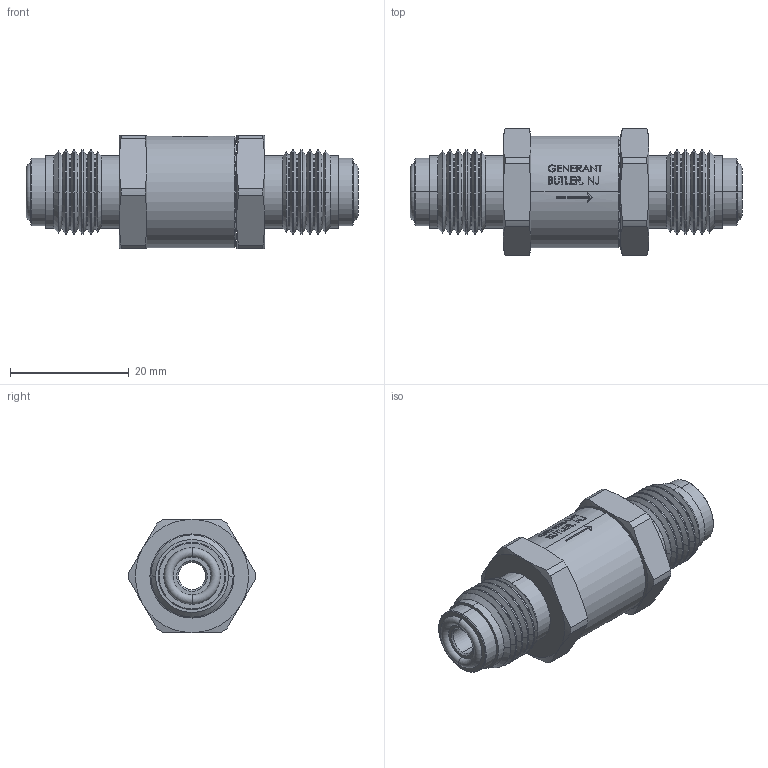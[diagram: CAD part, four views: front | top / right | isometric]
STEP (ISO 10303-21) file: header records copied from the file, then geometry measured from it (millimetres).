
FILE_DESCRIPTION (( 'STEP AP203' ), '1' );
FILE_NAME ('PCV-4VS.STEP', '2013-07-18T11:58:16', ( '' ), ( '' ), 'SwSTEP 2.0', 'SolidWorks 2011', '' );
FILE_SCHEMA (( 'CONFIG_CONTROL_DESIGN' ));
Length unit declared in the file: inch
Products named in the file (2): PCV-4VS; Part2^PCV-4VS_CM
Assembly tree (1 placements, depth 2):
  PCV-4VS
    Part2^PCV-4VS_CM
Bounding box: 55.85 x 21.33 x 19.05 mm (x, y, z)
Volume: 9963.1 mm3; surface area: 4955.3 mm2
Topology: 1 solids, 1 shells, 397 faces, 969 edges, 608 vertices
Faces by surface type: plane 154, cylinder 89, cone 82, bspline 68, torus 4
Entity records: 15239 total; most frequent: CARTESIAN_POINT 6210, ORIENTED_EDGE 1938, DIRECTION 1670, EDGE_CURVE 969, AXIS2_PLACEMENT_3D 647, VERTEX_POINT 608, EDGE_LOOP 433, FACE_OUTER_BOUND 397
